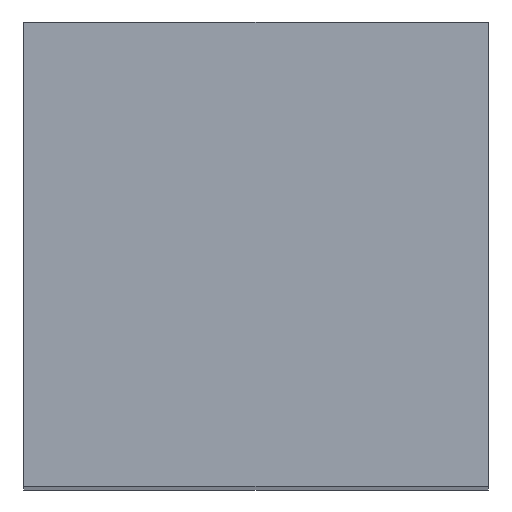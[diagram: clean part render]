
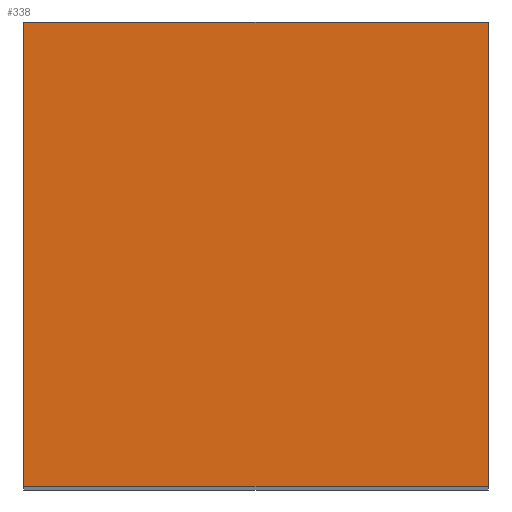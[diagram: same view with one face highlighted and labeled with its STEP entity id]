
A CAD part, top view. The second image highlights one B-rep face of the part: STEP entity #338.
In plain terms, the highlighted planar face has unit normal (0, 0, 1).
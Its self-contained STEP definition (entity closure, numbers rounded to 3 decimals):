
#24 = VERTEX_POINT('',#25);
#25 = CARTESIAN_POINT('',(55.5,-90.913,192.));
#32 = PLANE('',#33);
#33 = AXIS2_PLACEMENT_3D('',#34,#35,#36);
#34 = CARTESIAN_POINT('',(55.5,-90.913,86.));
#35 = DIRECTION('',(1.,0.,-0.));
#36 = DIRECTION('',(0.,0.,1.));
#44 = PLANE('',#45);
#45 = AXIS2_PLACEMENT_3D('',#46,#47,#48);
#46 = CARTESIAN_POINT('',(55.5,-90.913,86.));
#47 = DIRECTION('',(-0.,1.,0.));
#48 = DIRECTION('',(0.,0.,1.));
#85 = VERTEX_POINT('',#86);
#86 = CARTESIAN_POINT('',(55.5,-66.913,192.));
#100 = PLANE('',#101);
#101 = AXIS2_PLACEMENT_3D('',#102,#103,#104);
#102 = CARTESIAN_POINT('',(55.5,-66.913,86.));
#103 = DIRECTION('',(-0.,1.,0.));
#104 = DIRECTION('',(0.,0.,1.));
#112 = EDGE_CURVE('',#24,#85,#113,.T.);
#113 = SURFACE_CURVE('',#114,(#118,#125),.PCURVE_S1.);
#114 = LINE('',#115,#116);
#115 = CARTESIAN_POINT('',(55.5,-90.913,192.));
#116 = VECTOR('',#117,1.);
#117 = DIRECTION('',(-0.,1.,0.));
#118 = PCURVE('',#32,#119);
#119 = DEFINITIONAL_REPRESENTATION('',(#120),#124);
#120 = LINE('',#121,#122);
#121 = CARTESIAN_POINT('',(106.,0.));
#122 = VECTOR('',#123,1.);
#123 = DIRECTION('',(0.,-1.));
#124 = ( GEOMETRIC_REPRESENTATION_CONTEXT(2) 
PARAMETRIC_REPRESENTATION_CONTEXT() REPRESENTATION_CONTEXT('2D SPACE',''
  ) );
#125 = PCURVE('',#126,#131);
#126 = PLANE('',#127);
#127 = AXIS2_PLACEMENT_3D('',#128,#129,#130);
#128 = CARTESIAN_POINT('',(55.5,-90.913,192.));
#129 = DIRECTION('',(0.,0.,1.));
#130 = DIRECTION('',(1.,0.,-0.));
#131 = DEFINITIONAL_REPRESENTATION('',(#132),#136);
#132 = LINE('',#133,#134);
#133 = CARTESIAN_POINT('',(0.,0.));
#134 = VECTOR('',#135,1.);
#135 = DIRECTION('',(0.,1.));
#136 = ( GEOMETRIC_REPRESENTATION_CONTEXT(2) 
PARAMETRIC_REPRESENTATION_CONTEXT() REPRESENTATION_CONTEXT('2D SPACE',''
  ) );
#144 = VERTEX_POINT('',#145);
#145 = CARTESIAN_POINT('',(79.5,-90.913,192.));
#152 = PLANE('',#153);
#153 = AXIS2_PLACEMENT_3D('',#154,#155,#156);
#154 = CARTESIAN_POINT('',(79.5,-90.913,86.));
#155 = DIRECTION('',(1.,0.,-0.));
#156 = DIRECTION('',(0.,0.,1.));
#195 = VERTEX_POINT('',#196);
#196 = CARTESIAN_POINT('',(79.5,-66.913,192.));
#217 = EDGE_CURVE('',#144,#195,#218,.T.);
#218 = SURFACE_CURVE('',#219,(#223,#230),.PCURVE_S1.);
#219 = LINE('',#220,#221);
#220 = CARTESIAN_POINT('',(79.5,-90.913,192.));
#221 = VECTOR('',#222,1.);
#222 = DIRECTION('',(-0.,1.,0.));
#223 = PCURVE('',#152,#224);
#224 = DEFINITIONAL_REPRESENTATION('',(#225),#229);
#225 = LINE('',#226,#227);
#226 = CARTESIAN_POINT('',(106.,0.));
#227 = VECTOR('',#228,1.);
#228 = DIRECTION('',(0.,-1.));
#229 = ( GEOMETRIC_REPRESENTATION_CONTEXT(2) 
PARAMETRIC_REPRESENTATION_CONTEXT() REPRESENTATION_CONTEXT('2D SPACE',''
  ) );
#230 = PCURVE('',#126,#231);
#231 = DEFINITIONAL_REPRESENTATION('',(#232),#236);
#232 = LINE('',#233,#234);
#233 = CARTESIAN_POINT('',(24.,0.));
#234 = VECTOR('',#235,1.);
#235 = DIRECTION('',(0.,1.));
#236 = ( GEOMETRIC_REPRESENTATION_CONTEXT(2) 
PARAMETRIC_REPRESENTATION_CONTEXT() REPRESENTATION_CONTEXT('2D SPACE',''
  ) );
#263 = EDGE_CURVE('',#24,#144,#264,.T.);
#264 = SURFACE_CURVE('',#265,(#269,#276),.PCURVE_S1.);
#265 = LINE('',#266,#267);
#266 = CARTESIAN_POINT('',(55.5,-90.913,192.));
#267 = VECTOR('',#268,1.);
#268 = DIRECTION('',(1.,0.,-0.));
#269 = PCURVE('',#44,#270);
#270 = DEFINITIONAL_REPRESENTATION('',(#271),#275);
#271 = LINE('',#272,#273);
#272 = CARTESIAN_POINT('',(106.,0.));
#273 = VECTOR('',#274,1.);
#274 = DIRECTION('',(0.,1.));
#275 = ( GEOMETRIC_REPRESENTATION_CONTEXT(2) 
PARAMETRIC_REPRESENTATION_CONTEXT() REPRESENTATION_CONTEXT('2D SPACE',''
  ) );
#276 = PCURVE('',#126,#277);
#277 = DEFINITIONAL_REPRESENTATION('',(#278),#282);
#278 = LINE('',#279,#280);
#279 = CARTESIAN_POINT('',(0.,0.));
#280 = VECTOR('',#281,1.);
#281 = DIRECTION('',(1.,0.));
#282 = ( GEOMETRIC_REPRESENTATION_CONTEXT(2) 
PARAMETRIC_REPRESENTATION_CONTEXT() REPRESENTATION_CONTEXT('2D SPACE',''
  ) );
#310 = EDGE_CURVE('',#85,#195,#311,.T.);
#311 = SURFACE_CURVE('',#312,(#316,#323),.PCURVE_S1.);
#312 = LINE('',#313,#314);
#313 = CARTESIAN_POINT('',(55.5,-66.913,192.));
#314 = VECTOR('',#315,1.);
#315 = DIRECTION('',(1.,0.,-0.));
#316 = PCURVE('',#100,#317);
#317 = DEFINITIONAL_REPRESENTATION('',(#318),#322);
#318 = LINE('',#319,#320);
#319 = CARTESIAN_POINT('',(106.,0.));
#320 = VECTOR('',#321,1.);
#321 = DIRECTION('',(0.,1.));
#322 = ( GEOMETRIC_REPRESENTATION_CONTEXT(2) 
PARAMETRIC_REPRESENTATION_CONTEXT() REPRESENTATION_CONTEXT('2D SPACE',''
  ) );
#323 = PCURVE('',#126,#324);
#324 = DEFINITIONAL_REPRESENTATION('',(#325),#329);
#325 = LINE('',#326,#327);
#326 = CARTESIAN_POINT('',(0.,24.));
#327 = VECTOR('',#328,1.);
#328 = DIRECTION('',(1.,0.));
#329 = ( GEOMETRIC_REPRESENTATION_CONTEXT(2) 
PARAMETRIC_REPRESENTATION_CONTEXT() REPRESENTATION_CONTEXT('2D SPACE',''
  ) );
#338 = ADVANCED_FACE('',(#339),#126,.T.);
#339 = FACE_BOUND('',#340,.T.);
#340 = EDGE_LOOP('',(#341,#342,#343,#344));
#341 = ORIENTED_EDGE('',*,*,#112,.F.);
#342 = ORIENTED_EDGE('',*,*,#263,.T.);
#343 = ORIENTED_EDGE('',*,*,#217,.T.);
#344 = ORIENTED_EDGE('',*,*,#310,.F.);
